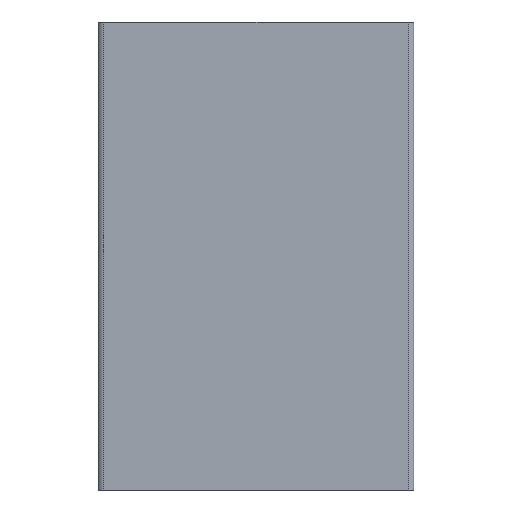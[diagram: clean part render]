
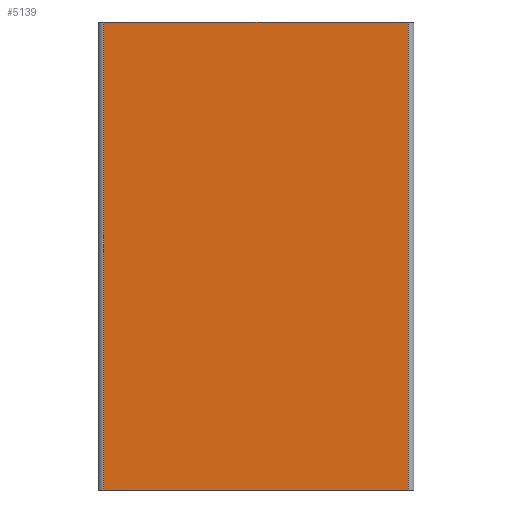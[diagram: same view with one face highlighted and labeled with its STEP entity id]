
A CAD part, front view. The second image highlights one B-rep face of the part: STEP entity #5139.
In plain terms, the highlighted planar face has unit normal (0, -1, 0).
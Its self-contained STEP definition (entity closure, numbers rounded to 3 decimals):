
#20 = CARTESIAN_POINT ( 'NONE',  ( 65., -22.5, 200. ) ) ;
#419 = CARTESIAN_POINT ( 'NONE',  ( 0., -22.5, 200. ) ) ;
#519 = EDGE_LOOP ( 'NONE', ( #4606, #5371, #4694, #5022 ) ) ;
#719 = VECTOR ( 'NONE', #4119, 1000. ) ;
#868 = PLANE ( 'NONE',  #1250 ) ;
#1049 = VECTOR ( 'NONE', #2847, 1000. ) ;
#1155 = CARTESIAN_POINT ( 'NONE',  ( 0., -22.5, 200. ) ) ;
#1240 = CARTESIAN_POINT ( 'NONE',  ( -65., -22.5, 200. ) ) ;
#1250 = AXIS2_PLACEMENT_3D ( 'NONE', #419, #5393, #2976 ) ;
#1391 = DIRECTION ( 'NONE',  ( 0., 0., -1. ) ) ;
#1417 = VECTOR ( 'NONE', #1391, 1000. ) ;
#1594 = EDGE_CURVE ( 'NONE', #4497, #4351, #3502, .T. ) ;
#2027 = VERTEX_POINT ( 'NONE', #3060 ) ;
#2712 = EDGE_CURVE ( 'NONE', #4351, #2027, #3807, .T. ) ;
#2847 = DIRECTION ( 'NONE',  ( 1., 0., 0. ) ) ;
#2976 = DIRECTION ( 'NONE',  ( -1., 0., 0. ) ) ;
#3060 = CARTESIAN_POINT ( 'NONE',  ( 65., -22.5, 0. ) ) ;
#3502 = LINE ( 'NONE', #3874, #1417 ) ;
#3743 = DIRECTION ( 'NONE',  ( 1., 0., 0. ) ) ;
#3750 = CARTESIAN_POINT ( 'NONE',  ( 0., -22.5, 0. ) ) ;
#3807 = LINE ( 'NONE', #3750, #4771 ) ;
#3809 = CARTESIAN_POINT ( 'NONE',  ( -65., -22.5, 0. ) ) ;
#3874 = CARTESIAN_POINT ( 'NONE',  ( -65., -22.5, 200. ) ) ;
#4119 = DIRECTION ( 'NONE',  ( 0., 0., -1. ) ) ;
#4160 = FACE_OUTER_BOUND ( 'NONE', #519, .T. ) ;
#4228 = LINE ( 'NONE', #1155, #1049 ) ;
#4351 = VERTEX_POINT ( 'NONE', #3809 ) ;
#4357 = EDGE_CURVE ( 'NONE', #5203, #2027, #5009, .T. ) ;
#4372 = CARTESIAN_POINT ( 'NONE',  ( 65., -22.5, 200. ) ) ;
#4497 = VERTEX_POINT ( 'NONE', #1240 ) ;
#4606 = ORIENTED_EDGE ( 'NONE', *, *, #2712, .T. ) ;
#4694 = ORIENTED_EDGE ( 'NONE', *, *, #4923, .F. ) ;
#4771 = VECTOR ( 'NONE', #3743, 1000. ) ;
#4923 = EDGE_CURVE ( 'NONE', #4497, #5203, #4228, .T. ) ;
#5009 = LINE ( 'NONE', #4372, #719 ) ;
#5022 = ORIENTED_EDGE ( 'NONE', *, *, #1594, .T. ) ;
#5139 = ADVANCED_FACE ( 'NONE', ( #4160 ), #868, .F. ) ;
#5203 = VERTEX_POINT ( 'NONE', #20 ) ;
#5371 = ORIENTED_EDGE ( 'NONE', *, *, #4357, .F. ) ;
#5393 = DIRECTION ( 'NONE',  ( 0., 1., 0. ) ) ;
